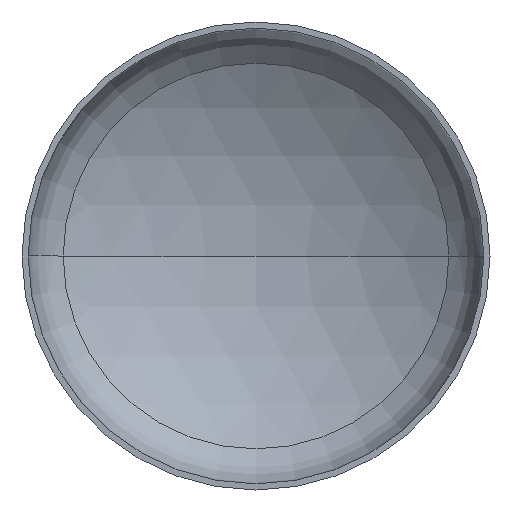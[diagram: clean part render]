
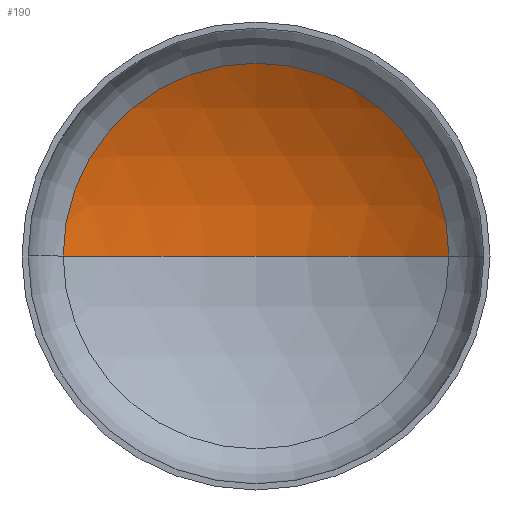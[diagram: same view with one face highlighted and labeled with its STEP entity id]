
A CAD part, front view. The second image highlights one B-rep face of the part: STEP entity #190.
In plain terms, the highlighted spherical face has radius 4000 mm.
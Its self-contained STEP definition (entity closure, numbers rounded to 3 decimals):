
#2 = VERTEX_POINT ( 'NONE', #259 ) ;
#9 = EDGE_LOOP ( 'NONE', ( #88, #75, #24 ) ) ;
#17 = CARTESIAN_POINT ( 'NONE',  ( 0., -2648.394, 0. ) ) ;
#24 = ORIENTED_EDGE ( 'NONE', *, *, #331, .T. ) ;
#26 = AXIS2_PLACEMENT_3D ( 'NONE', #17, #270, #124 ) ;
#30 = DIRECTION ( 'NONE',  ( 1., 0., 0. ) ) ;
#32 = CIRCLE ( 'NONE', #26, 4000. ) ;
#35 = AXIS2_PLACEMENT_3D ( 'NONE', #298, #196, #390 ) ;
#40 = AXIS2_PLACEMENT_3D ( 'NONE', #166, #253, #30 ) ;
#41 = VERTEX_POINT ( 'NONE', #290 ) ;
#68 = AXIS2_PLACEMENT_3D ( 'NONE', #219, #152, #197 ) ;
#75 = ORIENTED_EDGE ( 'NONE', *, *, #333, .T. ) ;
#88 = ORIENTED_EDGE ( 'NONE', *, *, #339, .F. ) ;
#99 = VERTEX_POINT ( 'NONE', #236 ) ;
#124 = DIRECTION ( 'NONE',  ( 1., 0., 0. ) ) ;
#146 = FACE_OUTER_BOUND ( 'NONE', #9, .T. ) ;
#152 = DIRECTION ( 'NONE',  ( 0., 0., -1. ) ) ;
#166 = CARTESIAN_POINT ( 'NONE',  ( 0., 779.958, 0. ) ) ;
#175 = CIRCLE ( 'NONE', #35, 4000. ) ;
#180 = CIRCLE ( 'NONE', #40, 2060.681 ) ;
#190 = ADVANCED_FACE ( 'NONE', ( #146 ), #267, .F. ) ;
#196 = DIRECTION ( 'NONE',  ( 0., 0., -1. ) ) ;
#197 = DIRECTION ( 'NONE',  ( -1., 0., 0. ) ) ;
#219 = CARTESIAN_POINT ( 'NONE',  ( 0., -2648.394, 0. ) ) ;
#236 = CARTESIAN_POINT ( 'NONE',  ( 0., 1351.606, 0. ) ) ;
#253 = DIRECTION ( 'NONE',  ( 0., -1., 0. ) ) ;
#259 = CARTESIAN_POINT ( 'NONE',  ( 2060.681, 779.958, 0. ) ) ;
#267 = SPHERICAL_SURFACE ( 'NONE', #68, 4000. ) ;
#270 = DIRECTION ( 'NONE',  ( 0., 0., 1. ) ) ;
#290 = CARTESIAN_POINT ( 'NONE',  ( -2060.681, 779.958, 0. ) ) ;
#298 = CARTESIAN_POINT ( 'NONE',  ( 0., -2648.394, 0. ) ) ;
#331 = EDGE_CURVE ( 'NONE', #2, #41, #180, .T. ) ;
#333 = EDGE_CURVE ( 'NONE', #99, #2, #175, .T. ) ;
#339 = EDGE_CURVE ( 'NONE', #99, #41, #32, .T. ) ;
#390 = DIRECTION ( 'NONE',  ( -1., 0., 0. ) ) ;
